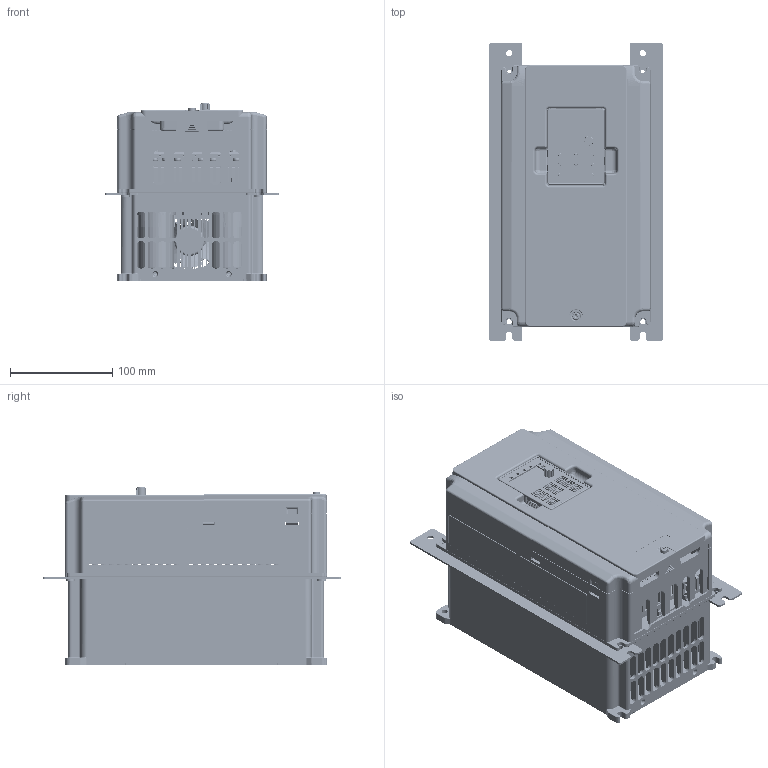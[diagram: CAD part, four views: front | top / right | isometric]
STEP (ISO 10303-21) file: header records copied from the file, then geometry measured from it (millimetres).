
FILE_DESCRIPTION((''),'2;1');
FILE_NAME('GD100-2R2G-2-PV_ASM','2019-10-30T',('Administrator'),(''),'PRO/ENGINEER BY PARAMETRIC TECHNOLOGY CORPORATION, 2010280','PRO/ENGINEER BY PARAMETRIC TECHNOLOGY CORPORATION, 2010280','');
FILE_SCHEMA(('CONFIG_CONTROL_DESIGN'));
Products named in the file (45): GD350-7R5G-4_COVER_ASM; 80740175; 80880484; 80740177; 80310231; 80740176; 2-21-19-062-BP602524HL; TB1100-08_BODY_02; TB1100-08_TER_02; TB1300-02_LUODING_02; TB1300-02_WADIAN_02; TB1300-02_LUODINGASM_02_ASM; TB1100-08-02_ASM; CH-LD-5R5-DRIVE_PCB; 70610025; B36015418; 1-01-27-906; LD100-DIANRONGBAN; CAPACITOR_35; LD100-DIANRONG_ASM; GD350-7R5-4-ES_ASM; 80740019; GB9074_4_M4X10; GB9074_13_M5X16; GB9074_4_M4X12; 77340010; GD350-7R5G-4-FS_ASM; 80380186; S-M5-ZC; 80380186_ASM; 80380187; 80380187_ASM; 40800024_ASM; 80810133; 80810133SY; 80810133SY_ASM; 80810134; 80810134SY; 80810134SY_ASM; 80810010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
Assembly tree (90 placements, depth 5):
  GD100-2R2G-2-PV_ASM
    GD350-7R5G-4_COVER_ASM
    80740175
    80880484
    80740177
    80310231
    80740176
    GD350-7R5-4-ES_ASM
      2-21-19-062-BP602524HL
      TB1100-08-02_ASM
        TB1100-08_BODY_02
        TB1100-08_TER_02  x9
        TB1300-02_LUODINGASM_02_ASM  x9
          TB1300-02_LUODING_02
          TB1300-02_WADIAN_02
      CH-LD-5R5-DRIVE_PCB
      70610025
      B36015418
      1-01-27-906
      LD100-DIANRONG_ASM
        LD100-DIANRONGBAN
        CAPACITOR_35  x4
    80740019  x4
    GD350-7R5G-4-FS_ASM
      GB9074_4_M4X10  x19
      GB9074_13_M5X16  x2
      GB9074_4_M4X12  x3
      77340010
    40800024_ASM
      80380186_ASM
        80380186
        S-M5-ZC  x2
      80380187_ASM
        80380187
        S-M5-ZC  x2
    80810133SY_ASM
      80810133
      80810133SY
    80810134SY_ASM
      80810134
      80810134SY
    GD100-JP_ASM
      80810010
      80710012
      LD100-JP-PCB
      80740127
Bounding box: 170.2 x 292 x 173.85 mm (x, y, z)
Volume: 1529965.3 mm3; surface area: 1238518.3 mm2
Topology: 84 solids, 84 shells, 10896 faces, 30053 edges, 19301 vertices
Faces by surface type: plane 6769, cylinder 2632, bspline 526, torus 485, cone 293, sphere 104, extrusion 71, revolution 16
Entity records: 281843 total; most frequent: CARTESIAN_POINT 68026, ORIENTED_EDGE 45942, DIRECTION 42595, EDGE_CURVE 22971, VECTOR 16853, LINE 16782, VERTEX_POINT 14884, AXIS2_PLACEMENT_3D 12863
